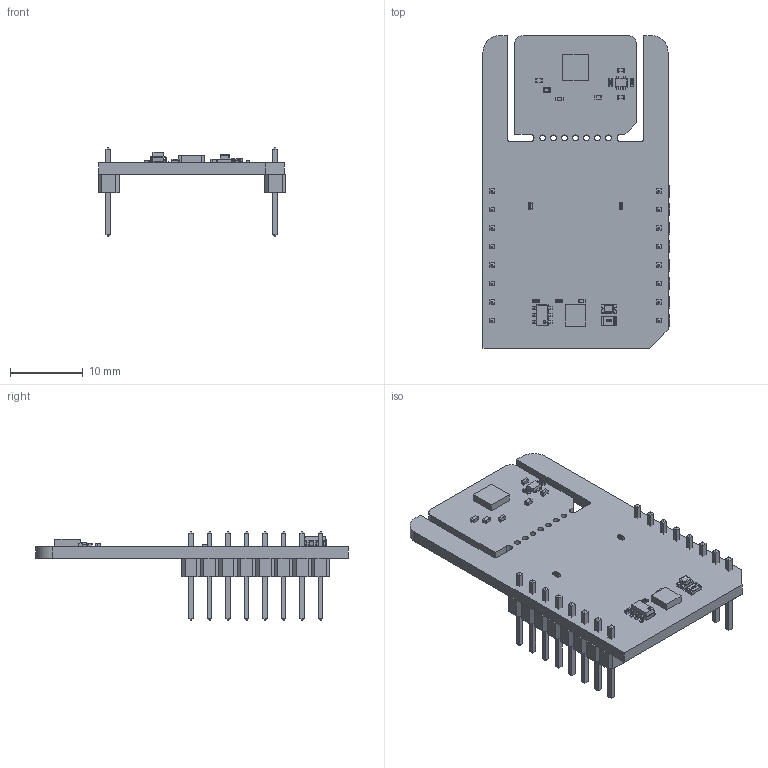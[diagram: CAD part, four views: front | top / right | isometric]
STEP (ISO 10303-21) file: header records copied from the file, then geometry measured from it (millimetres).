
FILE_DESCRIPTION(('Open CASCADE Model'),'2;1');
FILE_NAME('Open CASCADE Shape Model','2025-11-13T13:44:02',('Author'),( 'Open CASCADE'),'Open CASCADE STEP processor 6.8','Open CASCADE 6.8' ,'Unknown');
FILE_SCHEMA(('AUTOMOTIVE_DESIGN { 1 0 10303 214 1 1 1 1 }'));
Length unit declared in the file: millimetre
Products named in the file (39): PCB; Board; R8; User_Library-R_0402; R7; C6; User_Library-SMD_CAPACITOR0402; U5; User_Library-HVSOF5; MBD1; Header_1x8; Free-Models; 1240637040; User_Library-PinHeaderX5-1_PinHeaderX5_Body_1; User_Library-PinHeaderX5-1_PinHeaderX5_Pins_1; R3; R1; User_Library-R_0805; LD1; led_0805_green; C1; R4; U1; 807540080; Extruded; U2; User_Library-SOT23-6-2; C2; C3; C4; C5; FB1; User_Library-Chip_InductorINDC1005X60N; R5; U4; 1125573144; R2
Assembly tree (50 placements, depth 7):
  PCB
    Board
    R8
      User_Library-R_0402
    R7
      User_Library-R_0402
    C6
      User_Library-SMD_CAPACITOR0402
    U5
      User_Library-HVSOF5
    MBD1
      Header_1x8  x2
        PCB
          Free-Models
            1240637040  x2
              User_Library-PinHeaderX5-1_PinHeaderX5_Body_1
              User_Library-PinHeaderX5-1_PinHeaderX5_Pins_1
    R3
      User_Library-R_0402
    R1
      User_Library-R_0805
    LD1
      led_0805_green
    C1
      User_Library-SMD_CAPACITOR0402
    R4
      User_Library-R_0402
    U1
      807540080
        Extruded
    U2
      User_Library-SOT23-6-2
    C2
      User_Library-SMD_CAPACITOR0402
    C3
      User_Library-SMD_CAPACITOR0402
    C4
      User_Library-SMD_CAPACITOR0402
    C5
      User_Library-SMD_CAPACITOR0402
    FB1
      User_Library-Chip_InductorINDC1005X60N
    R5
      User_Library-R_0402
    U4
      1125573144
        Extruded
    R2
      User_Library-R_0402
Bounding box: 25.78 x 42.93 x 12.19 mm (x, y, z)
Volume: 2161.1 mm3; surface area: 3910.1 mm2
Topology: 49 solids, 49 shells, 1621 faces, 4042 edges, 2524 vertices
Faces by surface type: plane 1189, bspline 198, cylinder 172, sphere 62
Full cylindrical faces by diameter (mm): 0.8 x7
Entity records: 26373 total; most frequent: CARTESIAN_POINT 7643, ORIENTED_EDGE 3140, DIRECTION 2843, EDGE_CURVE 1570, LINE 1251, VECTOR 1251, VERTEX_POINT 996, AXIS2_PLACEMENT_3D 796
